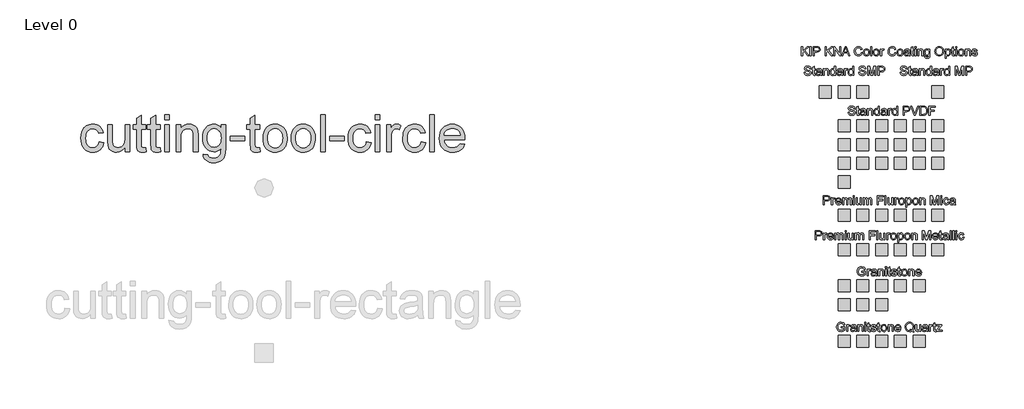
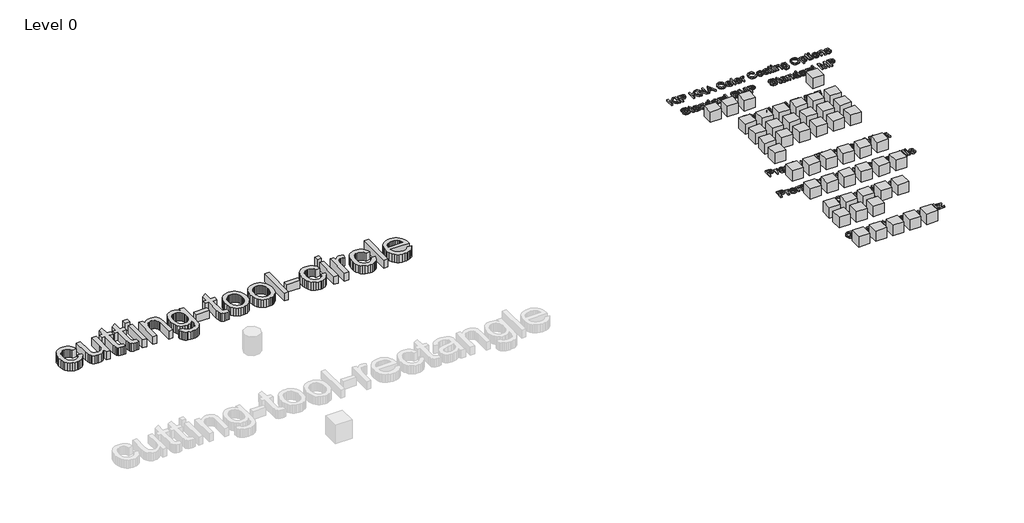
# One storey, part 4 of 4: 50 proxies.
"""IFC4 building model written with IfcOpenShell, lengths in millimetres."""

from ifc_helpers import new_model, si_unit, origin, origin_with_axes, place, context, project, spatial, polyline, outline, extrude, transform, mapped, element, save
from components import ks_color_sample_ks_color_sample_0243efec, r19_kna_color_range_kingspan_quadcore_4278cd54, r19_kna_color_range_kingspan_quadcore_c5814d20, r19_kna_color_range_kingspan_quadcore_91b79b7c

model = new_model("IFC4")

# Units and contexts
model_context = context("Model", 3, world=origin())
ifc_project = project(units=[si_unit("LENGTHUNIT", "METRE", prefix="MILLI")], contexts=[model_context])

# Site, building, storey
site = spatial("IfcSite", under=ifc_project)
building = spatial("IfcBuilding", under=site)
storey = spatial("IfcBuildingStorey", under=building, Name="Level 0", Elevation=0.0)

# Proxies
placement = place(None, origin())
element("IfcBuildingElementProxy", 1, Name="24\" Arial", ObjectType="24\" Arial", at=placement, inside=storey, context=model_context, shape_type="SweptSolid", body=[
    extrude(outline(polyline([(141.6411699, 12812.4925661), (217.7829435, 12802.9748444), (209.5014102, 12767.0463745), (196.5539627, 12735.2540238), (178.9406007, 12707.5977925), (156.6613245, 12684.0776804), (130.6548935, 12665.3071346), (101.8600676, 12651.8996018), (70.2768466, 12643.8550822), (35.9052305, 12641.1735756), (-6.7990393, 12644.9146723), (-45.0883503, 12656.1379623), (-78.9627026, 12674.8434456), (-108.422096, 12701.0311222), (-132.2675208, 12734.2083757), (-149.2999671, 12773.8825896), (-159.5194349, 12820.0537639), (-162.9259241, 12872.7218986), (-157.1074732, 12940.4798978), (-149.8344095, 12970.9709974), (-139.6521203, 12999.203497), (-126.4908958, 13024.610423), (-110.281026, 13046.6248018), (-91.0225111, 13065.2466332), (-68.7153508, 13080.4759174), (-44.3680149, 13092.3173016), (-18.9889729, 13100.7754332), (7.4217753, 13105.8503121), (34.8642297, 13107.5419384), (68.6456355, 13105.2182759), (99.2017976, 13098.2472883), (126.5327162, 13086.6289757), (150.6383912, 13070.3633381), (171.109858, 13049.8221614), (187.5381521, 13025.3772317), (199.9232733, 12997.0285489), (208.2652218, 12964.7761131), (132.1234482, 12955.2583914), (118.3115982, 12988.4774708), (96.8037779, 13012.2903643), (68.7897026, 13026.6227148), (35.4590873, 13031.4001649), (9.5874288, 13029.0486184), (-13.7467902, 13021.993979), (-34.5435698, 13010.2362467), (-52.8029099, 12993.7754214), (-67.6697027, 12972.2304225), (-78.2888404, 12945.2201693), (-84.6603231, 12912.7446619), (-86.7841506, 12874.8039002), (-84.7067963, 12836.2915176), (-78.4747334, 12803.4395769), (-68.087962, 12776.248078), (-53.5464819, 12754.7170211), (-35.6496332, 12738.3537896), (-15.1967556, 12726.6657671), (7.8121507, 12719.6529537), (33.3770857, 12717.3153492), (72.8049914, 12723.1523894), (89.856027, 12730.4486897), (105.1317844, 12740.6635102), (118.2047097, 12753.9083866), (128.6472491, 12770.2948547), (136.4594025, 12789.8229145), (141.6411699, 12812.4925661)])), origin_with_axes(), (0.0, 0.0, 1.0), 152.4),
    extrude(outline(polyline([(569.938646, 12650.6912973), (569.938646, 12727.5766429), (542.3893031, 12689.7753009), (510.304171, 12662.7743424), (473.6832497, 12646.5737673), (432.5265391, 12641.1735756), (395.4408852, 12644.9657929), (360.9205548, 12656.3424446), (331.9584251, 12673.4446007), (311.5473735, 12694.4133313), (297.8098807, 12719.8806726), (288.8684273, 12750.4786607), (284.4069953, 12821.2667157), (284.4069953, 13098.0242167), (360.5487688, 13098.0242167), (360.5487688, 12857.1068865), (361.7013054, 12808.9234204), (365.1589152, 12779.4779689), (376.2567274, 12753.5830738), (395.2735815, 12733.8970049), (420.9454051, 12721.4607631), (452.0081257, 12717.3153492), (484.8554191, 12721.5537096), (515.5835323, 12734.2687909), (540.9207484, 12754.2894672), (557.5953507, 12780.4446126), (566.8528221, 12816.266194), (569.938646, 12865.2861786), (569.938646, 13098.0242167), (646.0804195, 13098.0242167), (646.0804195, 12650.6912973), (569.938646, 12650.6912973)])), origin_with_axes(), (0.0, 0.0, 1.0), 152.4),
    extrude(outline(polyline([(912.5766268, 12714.1923467), (922.0943485, 12648.4605813), (891.9425036, 12642.9953271), (865.1367328, 12641.1735756), (828.5901686, 12644.3337567), (801.3382546, 12653.8142998), (782.0797396, 12668.4254897), (769.5133727, 12686.9776113), (762.598153, 12718.8396718), (760.2930798, 12773.3806785), (760.2930798, 13021.8824432), (703.1867496, 13021.8824432), (703.1867496, 13098.0242167), (760.2930798, 13098.0242167), (760.2930798, 13206.7344442), (836.4348533, 13251.497479), (836.4348533, 13098.0242167), (912.5766268, 13098.0242167), (912.5766268, 13021.8824432), (836.4348533, 13021.8824432), (836.4348533, 12775.6113945), (840.4501421, 12736.3507925), (853.4626522, 12722.445996), (864.4489286, 12718.5980109), (879.4133153, 12717.3153492), (912.5766268, 12714.1923467)])), origin_with_axes(), (0.0, 0.0, 1.0), 152.4),
    extrude(outline(polyline([(1150.519669, 12714.1923467), (1160.0373907, 12648.4605813), (1129.8855458, 12642.9953271), (1103.079775, 12641.1735756), (1066.5332108, 12644.3337567), (1039.2812968, 12653.8142998), (1020.0227818, 12668.4254897), (1007.4564149, 12686.9776113), (1000.5411952, 12718.8396718), (998.236122, 12773.3806785), (998.236122, 13021.8824432), (941.1297919, 13021.8824432), (941.1297919, 13098.0242167), (998.236122, 13098.0242167), (998.236122, 13206.7344442), (1074.3778955, 13251.497479), (1074.3778955, 13098.0242167), (1150.519669, 13098.0242167), (1150.519669, 13021.8824432), (1074.3778955, 13021.8824432), (1074.3778955, 12775.6113945), (1078.3931844, 12736.3507925), (1091.4056945, 12722.445996), (1102.3919709, 12718.5980109), (1117.3563575, 12717.3153492), (1150.519669, 12714.1923467)])), origin_with_axes(), (0.0, 0.0, 1.0), 152.4),
    extrude(outline(polyline([(1226.6614426, 13183.6837119), (1226.6614426, 13259.8254855), (1302.8032161, 13259.8254855), (1302.8032161, 13183.6837119), (1226.6614426, 13183.6837119)])), origin_with_axes(), (0.0, 0.0, 1.0), 152.4),
    extrude(outline(polyline([(1226.6614426, 12650.6912973), (1226.6614426, 13098.0242167), (1302.8032161, 13098.0242167), (1302.8032161, 12650.6912973), (1226.6614426, 12650.6912973)])), origin_with_axes(), (0.0, 0.0, 1.0), 152.4),
    extrude(outline(polyline([(1417.0158763, 12650.6912973), (1417.0158763, 13098.0242167), (1493.1576499, 13098.0242167), (1493.1576499, 13035.5641682), (1519.610224, 13067.0544427), (1551.379338, 13089.5474959), (1588.4649919, 13103.0433278), (1630.8671856, 13107.5419384), (1668.3989826, 13103.9170249), (1702.7705986, 13093.0422843), (1731.4352995, 13076.2747355), (1751.8463511, 13054.9713975), (1765.6953797, 13029.1880382), (1774.6740117, 12998.9804254), (1778.6893006, 12925.3667967), (1778.6893006, 12650.6912973), (1702.547527, 12650.6912973), (1702.547527, 12915.105503), (1700.3539896, 12954.4776408), (1693.7733774, 12982.4731269), (1681.6345643, 13002.5309817), (1662.7664247, 13018.090226), (1638.5817451, 13028.0726802), (1610.4933126, 13031.4001649), (1587.3728705, 13029.5319402), (1565.8975815, 13023.9272662), (1546.0674455, 13014.5861429), (1527.8824626, 13001.5085702), (1512.690357, 12983.2074042), (1501.838853, 12958.1955008), (1495.3279507, 12926.4728601), (1493.1576499, 12888.039482), (1493.1576499, 12650.6912973), (1417.0158763, 12650.6912973)])), origin_with_axes(), (0.0, 0.0, 1.0), 152.4),
    extrude(outline(polyline([(1864.3487958, 12612.6204106), (1940.4905693, 12603.1026889), (1948.892933, 12579.3083847), (1965.1771599, 12562.9498005), (1997.1879348, 12550.2347192), (2039.0882174, 12545.9963587), (2083.776895, 12550.7923982), (2101.8271055, 12556.7874475), (2117.0145637, 12565.1805165), (2140.065296, 12588.2312487), (2154.1931641, 12619.0151298), (2158.3199887, 12651.7694767), (2159.3981681, 12707.7976275), (2134.060952, 12682.813608), (2105.7866264, 12664.9678799), (2074.5751914, 12654.260443), (2040.426647, 12650.6912973), (1998.6797262, 12654.8460059), (1961.9240324, 12667.3101317), (1930.1595657, 12688.0836746), (1903.3863261, 12717.1666348), (1882.1434034, 12752.0587512), (1866.9698871, 12790.259763), (1857.8657773, 12831.7696703), (1854.8310741, 12876.5884731), (1860.277739, 12938.0632887), (1876.6177339, 12994.5933506), (1888.7286629, 13020.0839284), (1903.2747903, 13042.4979771), (1920.256116, 13061.8354966), (1939.6726401, 13078.096487), (1961.2129916, 13090.978872), (1984.5658, 13100.1805756), (2009.7310651, 13105.7015977), (2036.708787, 13107.5419384), (2072.3165915, 13103.3779352), (2104.6340898, 13090.8859255), (2133.661282, 13070.0659093), (2159.3981681, 13040.9178866), (2159.3981681, 13098.0242167), (2235.5399417, 13098.0242167), (2235.5399417, 12711.8129163), (2230.3349376, 12622.6400434), (2223.8286825, 12589.4720845), (2214.7199255, 12563.9164441), (2202.7902421, 12543.3055575), (2187.8212081, 12524.9718602), (2169.8128236, 12508.9153522), (2148.7650884, 12495.1360335), (2124.8917797, 12484.0753999), (2098.4066743, 12476.1749473), (2069.3097722, 12471.4346757), (2037.6010734, 12469.8545852), (2000.2969953, 12472.0806539), (1966.7572504, 12478.75886), (1936.9818389, 12489.8892035), (1910.9707606, 12505.4716844), (1889.9602041, 12525.5248919), (1875.1863578, 12550.0674155), (1866.6492217, 12579.099255), (1864.3487958, 12612.6204106)]), holes=[polyline([(1930.9728476, 12881.7934771), (1933.0037286, 12844.1454969), (1939.0963718, 12811.9534763), (1949.250777, 12785.2174154), (1963.4669443, 12763.937314), (1980.7503461, 12747.7042076), (2000.1064549, 12736.1091316), (2021.5352707, 12729.152086), (2045.0367935, 12726.8330708), (2068.30595, 12729.1381441), (2089.6325246, 12736.0533637), (2109.0165173, 12747.5787298), (2126.4579282, 12763.7142424), (2140.8692832, 12784.7852141), (2151.1631082, 12811.1169578), (2157.3394031, 12842.7094735), (2159.3981681, 12879.5627611), (2157.2789879, 12914.8777841), (2150.9214473, 12945.573366), (2140.3255462, 12971.6495068), (2125.4912846, 12993.1062066), (2107.6734404, 13009.8598133), (2088.1267913, 13021.8266753), (2066.8513372, 13029.0067925), (2043.8470783, 13031.4001649), (2021.2285473, 13029.0439711), (2000.3667051, 13021.9753897), (1981.2615519, 13010.1944207), (1963.9130875, 12993.7010642), (1949.5017325, 12972.5696772), (1939.2079076, 12946.874617), (1933.0316126, 12916.6158837), (1930.9728476, 12881.7934771)])]), origin_with_axes(), (0.0, 0.0, 1.0), 152.4),
    extrude(outline(polyline([(2311.6817152, 12831.5280094), (2311.6817152, 12907.6697829), (2549.6247574, 12907.6697829), (2549.6247574, 12831.5280094), (2311.6817152, 12831.5280094)])), origin_with_axes(), (0.0, 0.0, 1.0), 152.4),
    extrude(outline(polyline([(2797.0855213, 12714.1923467), (2806.603243, 12648.4605813), (2776.4513982, 12642.9953271), (2749.6456273, 12641.1735756), (2713.0990632, 12644.3337567), (2685.8471491, 12653.8142998), (2666.5886341, 12668.4254897), (2654.0222672, 12686.9776113), (2647.1070475, 12718.8396718), (2644.8019743, 12773.3806785), (2644.8019743, 13021.8824432), (2587.6956442, 13021.8824432), (2587.6956442, 13098.0242167), (2644.8019743, 13098.0242167), (2644.8019743, 13206.7344442), (2720.9437478, 13251.497479), (2720.9437478, 13098.0242167), (2797.0855213, 13098.0242167), (2797.0855213, 13021.8824432), (2720.9437478, 13021.8824432), (2720.9437478, 12775.6113945), (2724.9590367, 12736.3507925), (2737.9715468, 12722.445996), (2748.9578232, 12718.5980109), (2763.9222098, 12717.3153492), (2797.0855213, 12714.1923467)])), origin_with_axes(), (0.0, 0.0, 1.0), 152.4),
    extrude(outline(polyline([(2854.1918515, 12874.357757), (2858.3093815, 12932.291311), (2870.6619714, 12982.2128767), (2891.2496214, 13024.1224539), (2920.0723313, 13058.0200428), (2949.0902289, 13079.6858721), (2981.1195931, 13095.1614645), (3016.1604239, 13104.44682), (3054.2127214, 13107.5419384), (3096.2198924, 13103.7729578), (3134.20248, 13092.466016), (3168.1604841, 13073.6211129), (3198.0939047, 13047.2382487), (3222.5248925, 13014.2097096), (3239.975598, 12975.4277821), (3250.4460213, 12930.8924662), (3253.9361624, 12880.6037619), (3252.3932505, 12839.8467213), (3247.7645148, 12803.6812378), (3240.0499552, 12772.1073114), (3229.2495718, 12745.1249422), (3215.498137, 12721.8186071), (3198.9304232, 12701.2727831), (3179.5464305, 12683.4874702), (3157.3461587, 12668.4626683), (3133.1940105, 12656.5236903), (3107.9543882, 12647.9958488), (3081.6272918, 12642.8791439), (3054.2127214, 12641.1735756), (3011.5921034, 12644.9286143), (2973.2563191, 12656.1937302), (2939.2053685, 12674.9689234), (2909.4392516, 12701.2541938), (2885.2685141, 12734.6033983), (2868.0037015, 12774.5703937), (2857.644814, 12821.1551799), (2854.1918515, 12874.357757)]), holes=[polyline([(2930.333625, 12874.5064714), (2932.5364571, 12837.5741793), (2939.1449533, 12805.5959357), (2950.1591136, 12778.5717406), (2965.5789381, 12756.5015939), (2984.335542, 12739.3576118), (3005.3600405, 12727.1119103), (3028.6524336, 12719.7644895), (3054.2127214, 12717.3153492), (3079.642884, 12719.7784314), (3102.8423306, 12727.1676783), (3123.8110612, 12739.4830896), (3142.5490758, 12756.7246655), (3157.9689003, 12779.0132364), (3168.9830606, 12806.4696328), (3175.5915569, 12839.0938546), (3177.7943889, 12876.8859019), (3175.5776149, 12912.6470681), (3168.9272927, 12943.7887932), (3157.8434225, 12970.3110772), (3142.3260042, 12992.2139201), (3123.5182797, 13009.3579022), (3102.5634911, 13021.6036037), (3079.4616383, 13028.9510246), (3054.2127214, 13031.4001649), (3028.6524336, 13028.9603193), (3005.3600405, 13021.6407823), (2984.335542, 13009.4415541), (2965.5789381, 12992.3626345), (2950.1591136, 12970.3575505), (2939.1449533, 12943.3798286), (2932.5364571, 12911.4294689), (2930.333625, 12874.5064714)])]), origin_with_axes(), (0.0, 0.0, 1.0), 152.4),
    extrude(outline(polyline([(3320.5602143, 12874.357757), (3324.6777443, 12932.291311), (3337.0303342, 12982.2128767), (3357.6179842, 13024.1224539), (3386.4406941, 13058.0200428), (3415.4585917, 13079.6858721), (3447.4879559, 13095.1614645), (3482.5287867, 13104.44682), (3520.5810842, 13107.5419384), (3562.5882552, 13103.7729578), (3600.5708428, 13092.466016), (3634.5288469, 13073.6211129), (3664.4622675, 13047.2382487), (3688.8932553, 13014.2097096), (3706.3439608, 12975.4277821), (3716.8143841, 12930.8924662), (3720.3045252, 12880.6037619), (3718.7616133, 12839.8467213), (3714.1328776, 12803.6812378), (3706.418318, 12772.1073114), (3695.6179346, 12745.1249422), (3681.8664998, 12721.8186071), (3665.298786, 12701.2727831), (3645.9147933, 12683.4874702), (3623.7145215, 12668.4626683), (3599.5623733, 12656.5236903), (3574.322751, 12647.9958488), (3547.9956546, 12642.8791439), (3520.5810842, 12641.1735756), (3477.9604662, 12644.9286143), (3439.6246819, 12656.1937302), (3405.5737313, 12674.9689234), (3375.8076144, 12701.2541938), (3351.6368768, 12734.6033983), (3334.3720643, 12774.5703937), (3324.0131768, 12821.1551799), (3320.5602143, 12874.357757)]), holes=[polyline([(3396.7019878, 12874.5064714), (3398.9048199, 12837.5741793), (3405.5133161, 12805.5959357), (3416.5274764, 12778.5717406), (3431.9473009, 12756.5015939), (3450.7039048, 12739.3576118), (3471.7284033, 12727.1119103), (3495.0207964, 12719.7644895), (3520.5810842, 12717.3153492), (3546.0112468, 12719.7784314), (3569.2106934, 12727.1676783), (3590.179424, 12739.4830896), (3608.9174386, 12756.7246655), (3624.3372631, 12779.0132364), (3635.3514234, 12806.4696328), (3641.9599197, 12839.0938546), (3644.1627517, 12876.8859019), (3641.9459777, 12912.6470681), (3635.2956555, 12943.7887932), (3624.2117853, 12970.3110772), (3608.694367, 12992.2139201), (3589.8866425, 13009.3579022), (3568.9318539, 13021.6036037), (3545.8300011, 13028.9510246), (3520.5810842, 13031.4001649), (3495.0207964, 13028.9603193), (3471.7284033, 13021.6407823), (3450.7039048, 13009.4415541), (3431.9473009, 12992.3626345), (3416.5274764, 12970.3575505), (3405.5133161, 12943.3798286), (3398.9048199, 12911.4294689), (3396.7019878, 12874.5064714)])]), origin_with_axes(), (0.0, 0.0, 1.0), 152.4),
    extrude(outline(polyline([(3805.9640204, 12650.6912973), (3805.9640204, 13259.8254855), (3882.105794, 13259.8254855), (3882.105794, 12650.6912973), (3805.9640204, 12650.6912973)])), origin_with_axes(), (0.0, 0.0, 1.0), 152.4),
    extrude(outline(polyline([(3958.2475675, 12831.5280094), (3958.2475675, 12907.6697829), (4196.1906097, 12907.6697829), (4196.1906097, 12831.5280094), (3958.2475675, 12831.5280094)])), origin_with_axes(), (0.0, 0.0, 1.0), 152.4),
    extrude(outline(polyline([(4567.3817556, 12812.4925661), (4643.5235291, 12802.9748444), (4635.2419959, 12767.0463745), (4622.2945483, 12735.2540238), (4604.6811864, 12707.5977925), (4582.4019102, 12684.0776804), (4556.3954792, 12665.3071346), (4527.6006532, 12651.8996018), (4496.0174322, 12643.8550822), (4461.6458162, 12641.1735756), (4418.9415464, 12644.9146723), (4380.6522354, 12656.1379623), (4346.7778831, 12674.8434456), (4317.3184897, 12701.0311222), (4293.4730649, 12734.2083757), (4276.4406186, 12773.8825896), (4266.2211508, 12820.0537639), (4262.8146616, 12872.7218986), (4268.6331125, 12940.4798978), (4275.9061762, 12970.9709974), (4286.0884654, 12999.203497), (4299.2496899, 13024.610423), (4315.4595596, 13046.6248018), (4334.7180746, 13065.2466332), (4357.0252348, 13080.4759174), (4381.3725707, 13092.3173016), (4406.7516128, 13100.7754332), (4433.162361, 13105.8503121), (4460.6048154, 13107.5419384), (4494.3862212, 13105.2182759), (4524.9423833, 13098.2472883), (4552.2733019, 13086.6289757), (4576.3789769, 13070.3633381), (4596.8504437, 13049.8221614), (4613.2787378, 13025.3772317), (4625.663859, 12997.0285489), (4634.0058074, 12964.7761131), (4557.8640339, 12955.2583914), (4544.0521839, 12988.4774708), (4522.5443636, 13012.2903643), (4494.5302882, 13026.6227148), (4461.199673, 13031.4001649), (4435.3280145, 13029.0486184), (4411.9937955, 13021.993979), (4391.1970159, 13010.2362467), (4372.9376758, 12993.7754214), (4358.070883, 12972.2304225), (4347.4517452, 12945.2201693), (4341.0802626, 12912.7446619), (4338.9564351, 12874.8039002), (4341.0337894, 12836.2915176), (4347.2658522, 12803.4395769), (4357.6526237, 12776.248078), (4372.1941038, 12754.7170211), (4390.0909525, 12738.3537896), (4410.54383, 12726.6657671), (4433.5527363, 12719.6529537), (4459.1176714, 12717.3153492), (4498.5455771, 12723.1523894), (4515.5966127, 12730.4486897), (4530.8723701, 12740.6635102), (4543.9452954, 12753.9083866), (4554.3878348, 12770.2948547), (4562.1999882, 12789.8229145), (4567.3817556, 12812.4925661)])), origin_with_axes(), (0.0, 0.0, 1.0), 152.4),
    extrude(outline(polyline([(4710.147581, 13183.6837119), (4710.147581, 13259.8254855), (4786.2893545, 13259.8254855), (4786.2893545, 13183.6837119), (4710.147581, 13183.6837119)])), origin_with_axes(), (0.0, 0.0, 1.0), 152.4),
    extrude(outline(polyline([(4710.147581, 12650.6912973), (4710.147581, 13098.0242167), (4786.2893545, 13098.0242167), (4786.2893545, 12650.6912973), (4710.147581, 12650.6912973)])), origin_with_axes(), (0.0, 0.0, 1.0), 152.4),
    extrude(outline(polyline([(4900.5020148, 12650.6912973), (4900.5020148, 13098.0242167), (4967.1260666, 13098.0242167), (4967.1260666, 13031.8463081), (4991.7383, 13070.2146237), (5014.4172462, 13092.8192127), (5037.1705496, 13103.861257), (5062.0058547, 13107.5419384), (5099.928027, 13101.6677196), (5138.445057, 13084.045063), (5113.0148944, 13015.7851528), (5086.2463021, 13027.4964119), (5059.4777099, 13031.4001649), (5036.7429957, 13027.6451263), (5016.4248906, 13016.3800104), (5000.0105386, 12998.459925), (4988.9870836, 12974.739978), (4979.7296121, 12932.2076592), (4976.6437883, 12885.8087659), (4976.6437883, 12650.6912973), (4900.5020148, 12650.6912973)])), origin_with_axes(), (0.0, 0.0, 1.0), 152.4),
    extrude(outline(polyline([(5471.5653161, 12812.4925661), (5547.7070897, 12802.9748444), (5539.4255564, 12767.0463745), (5526.4781089, 12735.2540238), (5508.8647469, 12707.5977925), (5486.5854707, 12684.0776804), (5460.5790397, 12665.3071346), (5431.7842138, 12651.8996018), (5400.2009928, 12643.8550822), (5365.8293767, 12641.1735756), (5323.1251069, 12644.9146723), (5284.8357959, 12656.1379623), (5250.9614436, 12674.8434456), (5221.5020502, 12701.0311222), (5197.6566254, 12734.2083757), (5180.6241791, 12773.8825896), (5170.4047113, 12820.0537639), (5166.9982221, 12872.7218986), (5172.816673, 12940.4798978), (5180.0897367, 12970.9709974), (5190.2720259, 12999.203497), (5203.4332504, 13024.610423), (5219.6431202, 13046.6248018), (5238.9016351, 13065.2466332), (5261.2087954, 13080.4759174), (5285.5561313, 13092.3173016), (5310.9351733, 13100.7754332), (5337.3459215, 13105.8503121), (5364.7883759, 13107.5419384), (5398.5697817, 13105.2182759), (5429.1259438, 13098.2472883), (5456.4568624, 13086.6289757), (5480.5625374, 13070.3633381), (5501.0340042, 13049.8221614), (5517.4622983, 13025.3772317), (5529.8474195, 12997.0285489), (5538.189368, 12964.7761131), (5462.0475944, 12955.2583914), (5448.2357444, 12988.4774708), (5426.7279241, 13012.2903643), (5398.7138487, 13026.6227148), (5365.3832335, 13031.4001649), (5339.511575, 13029.0486184), (5316.177356, 13021.993979), (5295.3805764, 13010.2362467), (5277.1212363, 12993.7754214), (5262.2544435, 12972.2304225), (5251.6353058, 12945.2201693), (5245.2638231, 12912.7446619), (5243.1399956, 12874.8039002), (5245.2173499, 12836.2915176), (5251.4494128, 12803.4395769), (5261.8361842, 12776.248078), (5276.3776643, 12754.7170211), (5294.274513, 12738.3537896), (5314.7273906, 12726.6657671), (5337.7362968, 12719.6529537), (5363.3012319, 12717.3153492), (5402.7291376, 12723.1523894), (5419.7801732, 12730.4486897), (5435.0559306, 12740.6635102), (5448.1288559, 12753.9083866), (5458.5713953, 12770.2948547), (5466.3835487, 12789.8229145), (5471.5653161, 12812.4925661)])), origin_with_axes(), (0.0, 0.0, 1.0), 152.4),
    extrude(outline(polyline([(5614.3311415, 12650.6912973), (5614.3311415, 13259.8254855), (5690.472915, 13259.8254855), (5690.472915, 12650.6912973), (5614.3311415, 12650.6912973)])), origin_with_axes(), (0.0, 0.0, 1.0), 152.4),
    extrude(outline(polyline([(6117.8781046, 12783.939401), (6192.5327341, 12774.4216793), (6181.0863725, 12744.52079), (6165.6340168, 12718.170457), (6146.1756668, 12695.3706803), (6122.7113227, 12676.12146), (6095.4826452, 12660.8317606), (6064.7312954, 12649.9105467), (6030.4572732, 12643.3578184), (5992.6605786, 12641.1735756), (5945.4158722, 12644.9425563), (5903.320402, 12656.2494981), (5866.3741679, 12675.0944011), (5834.57717, 12701.4772654), (5809.0075876, 12734.6638135), (5790.7436001, 12773.9197682), (5779.7852077, 12819.2451293), (5776.1324102, 12870.639897), (5779.8223863, 12923.7774116), (5790.8923145, 12970.6131533), (5809.342195, 13011.1471224), (5835.1720276, 13045.3793186), (5866.8853737, 13072.5754648), (5902.9857946, 13092.0012835), (5943.4732904, 13103.6567747), (5988.347861, 13107.5419384), (6031.7771135, 13103.6660693), (6071.0516575, 13092.0384621), (6106.1714928, 13072.6591167), (6137.1366196, 13045.528033), (6162.4134205, 13011.370194), (6180.4682783, 12970.9105821), (6191.301193, 12924.1491976), (6194.9121645, 12871.0860402), (6194.4660213, 12850.5634528), (5852.2741837, 12850.5634528), (5856.6844952, 12820.1792417), (5865.4539975, 12793.5686585), (5878.5826908, 12770.7317032), (5896.0705749, 12751.6683759), (5916.9510064, 12736.6389267), (5940.2573414, 12725.9036058), (5965.9895802, 12719.4624133), (5994.1477227, 12717.3153492), (6034.672397, 12721.2934594), (6068.8023522, 12733.2277901), (6096.537588, 12753.8619133), (6117.8781046, 12783.939401)]), holes=[polyline([(5852.2741837, 12926.7052263), (6118.770391, 12926.7052263), (6108.4719187, 12966.9324719), (6099.6141172, 12982.7519664), (6088.2839387, 12995.7087086), (6067.5196904, 13011.3237207), (6043.8926899, 13022.4773008), (6017.4029372, 13029.1694489), (5988.0504322, 13031.4001649), (5961.2771926, 13029.6202394), (5936.7253744, 13024.2804629), (5914.3949776, 13015.3808355), (5894.2860021, 13002.921357), (5877.4115649, 12987.4782959), (5864.7847827, 12969.6279204), (5856.4056557, 12949.3702306), (5852.2741837, 12926.7052263)])]), origin_with_axes(), (0.0, 0.0, 1.0), 152.4),
])
ks_color_sample_ks_color_sample_shape = ks_color_sample_ks_color_sample_0243efec(model_context)
element("IfcBuildingElementProxy", 2, Name="KS_Color Sample : KS_Color Sample", ObjectType="KS_Color Sample : KS_Color Sample", at=placement, inside=storey, context=model_context, shape_type="MappedRepresentation", body=[
    mapped(ks_color_sample_ks_color_sample_shape, transform((12166.5853815, 13639.2290821, 0.0), x_axis=(1.0, 0.0, 0.0), y_axis=(0.0, 1.0, 0.0), z_axis=(0.0, 0.0, 1.0))),
])
element("IfcBuildingElementProxy", 3, Name="KS_Color Sample : KS_Color Sample", ObjectType="KS_Color Sample : KS_Color Sample", at=placement, inside=storey, context=model_context, shape_type="MappedRepresentation", body=[
    mapped(ks_color_sample_ks_color_sample_shape, transform((12476.5853815, 13639.2290821, 0.0), x_axis=(1.0, 0.0, 0.0), y_axis=(0.0, 1.0, 0.0), z_axis=(0.0, 0.0, 1.0))),
])
element("IfcBuildingElementProxy", 4, Name="KS_Color Sample : KS_Color Sample", ObjectType="KS_Color Sample : KS_Color Sample", at=placement, inside=storey, context=model_context, shape_type="MappedRepresentation", body=[
    mapped(ks_color_sample_ks_color_sample_shape, transform((12786.5853815, 13639.2290821, 0.0), x_axis=(1.0, 0.0, 0.0), y_axis=(0.0, 1.0, 0.0), z_axis=(0.0, 0.0, 1.0))),
])
element("IfcBuildingElementProxy", 5, Name="KS_Color Sample : KS_Color Sample", ObjectType="KS_Color Sample : KS_Color Sample", at=placement, inside=storey, context=model_context, shape_type="MappedRepresentation", body=[
    mapped(ks_color_sample_ks_color_sample_shape, transform((14026.5853815, 13639.2290821, 0.0), x_axis=(1.0, 0.0, 0.0), y_axis=(0.0, 1.0, 0.0), z_axis=(0.0, 0.0, 1.0))),
])
element("IfcBuildingElementProxy", 6, Name="KS_Color Sample : KS_Color Sample", ObjectType="KS_Color Sample : KS_Color Sample", at=placement, inside=storey, context=model_context, shape_type="MappedRepresentation", body=[
    mapped(ks_color_sample_ks_color_sample_shape, transform((12786.5853815, 13079.2290821, 0.0), x_axis=(1.0, 0.0, 0.0), y_axis=(0.0, 1.0, 0.0), z_axis=(0.0, 0.0, 1.0))),
])
element("IfcBuildingElementProxy", 7, Name="KS_Color Sample : KS_Color Sample", ObjectType="KS_Color Sample : KS_Color Sample", at=placement, inside=storey, context=model_context, shape_type="MappedRepresentation", body=[
    mapped(ks_color_sample_ks_color_sample_shape, transform((13096.5853815, 13079.2290821, 0.0), x_axis=(1.0, 0.0, 0.0), y_axis=(0.0, 1.0, 0.0), z_axis=(0.0, 0.0, 1.0))),
])
element("IfcBuildingElementProxy", 8, Name="KS_Color Sample : KS_Color Sample", ObjectType="KS_Color Sample : KS_Color Sample", at=placement, inside=storey, context=model_context, shape_type="MappedRepresentation", body=[
    mapped(ks_color_sample_ks_color_sample_shape, transform((13406.5853815, 13079.2290821, 0.0), x_axis=(1.0, 0.0, 0.0), y_axis=(0.0, 1.0, 0.0), z_axis=(0.0, 0.0, 1.0))),
])
element("IfcBuildingElementProxy", 9, Name="KS_Color Sample : KS_Color Sample", ObjectType="KS_Color Sample : KS_Color Sample", at=placement, inside=storey, context=model_context, shape_type="MappedRepresentation", body=[
    mapped(ks_color_sample_ks_color_sample_shape, transform((13716.5853815, 13079.2290821, 0.0), x_axis=(1.0, 0.0, 0.0), y_axis=(0.0, 1.0, 0.0), z_axis=(0.0, 0.0, 1.0))),
])
element("IfcBuildingElementProxy", 10, Name="KS_Color Sample : KS_Color Sample", ObjectType="KS_Color Sample : KS_Color Sample", at=placement, inside=storey, context=model_context, shape_type="MappedRepresentation", body=[
    mapped(ks_color_sample_ks_color_sample_shape, transform((12476.5853815, 11599.2290821, 0.0), x_axis=(1.0, 0.0, 0.0), y_axis=(0.0, 1.0, 0.0), z_axis=(0.0, 0.0, 1.0))),
])
element("IfcBuildingElementProxy", 11, Name="KS_Color Sample : KS_Color Sample", ObjectType="KS_Color Sample : KS_Color Sample", at=placement, inside=storey, context=model_context, shape_type="MappedRepresentation", body=[
    mapped(ks_color_sample_ks_color_sample_shape, transform((12786.5853815, 11599.2290821, 0.0), x_axis=(1.0, 0.0, 0.0), y_axis=(0.0, 1.0, 0.0), z_axis=(0.0, 0.0, 1.0))),
])
element("IfcBuildingElementProxy", 12, Name="KS_Color Sample : KS_Color Sample", ObjectType="KS_Color Sample : KS_Color Sample", at=placement, inside=storey, context=model_context, shape_type="MappedRepresentation", body=[
    mapped(ks_color_sample_ks_color_sample_shape, transform((13096.5853815, 11599.2290821, 0.0), x_axis=(1.0, 0.0, 0.0), y_axis=(0.0, 1.0, 0.0), z_axis=(0.0, 0.0, 1.0))),
])
element("IfcBuildingElementProxy", 13, Name="KS_Color Sample : KS_Color Sample", ObjectType="KS_Color Sample : KS_Color Sample", at=placement, inside=storey, context=model_context, shape_type="MappedRepresentation", body=[
    mapped(ks_color_sample_ks_color_sample_shape, transform((13406.5853815, 11599.2290821, 0.0), x_axis=(1.0, 0.0, 0.0), y_axis=(0.0, 1.0, 0.0), z_axis=(0.0, 0.0, 1.0))),
])
element("IfcBuildingElementProxy", 14, Name="KS_Color Sample : KS_Color Sample", ObjectType="KS_Color Sample : KS_Color Sample", at=placement, inside=storey, context=model_context, shape_type="MappedRepresentation", body=[
    mapped(ks_color_sample_ks_color_sample_shape, transform((14026.5853815, 13079.2290821, 0.0), x_axis=(1.0, 0.0, 0.0), y_axis=(0.0, 1.0, 0.0), z_axis=(0.0, 0.0, 1.0))),
])
element("IfcBuildingElementProxy", 15, Name="KS_Color Sample : KS_Color Sample", ObjectType="KS_Color Sample : KS_Color Sample", at=placement, inside=storey, context=model_context, shape_type="MappedRepresentation", body=[
    mapped(ks_color_sample_ks_color_sample_shape, transform((13716.5853815, 12769.2290821, 0.0), x_axis=(1.0, 0.0, 0.0), y_axis=(0.0, 1.0, 0.0), z_axis=(0.0, 0.0, 1.0))),
])
element("IfcBuildingElementProxy", 16, Name="KS_Color Sample : KS_Color Sample", ObjectType="KS_Color Sample : KS_Color Sample", at=placement, inside=storey, context=model_context, shape_type="MappedRepresentation", body=[
    mapped(ks_color_sample_ks_color_sample_shape, transform((14026.5853815, 12769.2290821, 0.0), x_axis=(1.0, 0.0, 0.0), y_axis=(0.0, 1.0, 0.0), z_axis=(0.0, 0.0, 1.0))),
])
element("IfcBuildingElementProxy", 17, Name="KS_Color Sample : KS_Color Sample", ObjectType="KS_Color Sample : KS_Color Sample", at=placement, inside=storey, context=model_context, shape_type="MappedRepresentation", body=[
    mapped(ks_color_sample_ks_color_sample_shape, transform((12476.5853815, 12769.2290821, 0.0), x_axis=(1.0, 0.0, 0.0), y_axis=(0.0, 1.0, 0.0), z_axis=(0.0, 0.0, 1.0))),
])
element("IfcBuildingElementProxy", 18, Name="KS_Color Sample : KS_Color Sample", ObjectType="KS_Color Sample : KS_Color Sample", at=placement, inside=storey, context=model_context, shape_type="MappedRepresentation", body=[
    mapped(ks_color_sample_ks_color_sample_shape, transform((13096.5853815, 12769.2290821, 0.0), x_axis=(1.0, 0.0, 0.0), y_axis=(0.0, 1.0, 0.0), z_axis=(0.0, 0.0, 1.0))),
])
element("IfcBuildingElementProxy", 19, Name="KS_Color Sample : KS_Color Sample", ObjectType="KS_Color Sample : KS_Color Sample", at=placement, inside=storey, context=model_context, shape_type="MappedRepresentation", body=[
    mapped(ks_color_sample_ks_color_sample_shape, transform((13406.5853815, 12769.2290821, 0.0), x_axis=(1.0, 0.0, 0.0), y_axis=(0.0, 1.0, 0.0), z_axis=(0.0, 0.0, 1.0))),
])
element("IfcBuildingElementProxy", 20, Name="KS_Color Sample : KS_Color Sample", ObjectType="KS_Color Sample : KS_Color Sample", at=placement, inside=storey, context=model_context, shape_type="MappedRepresentation", body=[
    mapped(ks_color_sample_ks_color_sample_shape, transform((12476.5853815, 12459.2290821, 0.0), x_axis=(1.0, 0.0, 0.0), y_axis=(0.0, 1.0, 0.0), z_axis=(0.0, 0.0, 1.0))),
])
element("IfcBuildingElementProxy", 21, Name="KS_Color Sample : KS_Color Sample", ObjectType="KS_Color Sample : KS_Color Sample", at=placement, inside=storey, context=model_context, shape_type="MappedRepresentation", body=[
    mapped(ks_color_sample_ks_color_sample_shape, transform((12786.5853815, 12459.2290821, 0.0), x_axis=(1.0, 0.0, 0.0), y_axis=(0.0, 1.0, 0.0), z_axis=(0.0, 0.0, 1.0))),
])
element("IfcBuildingElementProxy", 22, Name="KS_Color Sample : KS_Color Sample", ObjectType="KS_Color Sample : KS_Color Sample", at=placement, inside=storey, context=model_context, shape_type="MappedRepresentation", body=[
    mapped(ks_color_sample_ks_color_sample_shape, transform((13096.5853815, 12459.2290821, 0.0), x_axis=(1.0, 0.0, 0.0), y_axis=(0.0, 1.0, 0.0), z_axis=(0.0, 0.0, 1.0))),
])
element("IfcBuildingElementProxy", 23, Name="KS_Color Sample : KS_Color Sample", ObjectType="KS_Color Sample : KS_Color Sample", at=placement, inside=storey, context=model_context, shape_type="MappedRepresentation", body=[
    mapped(ks_color_sample_ks_color_sample_shape, transform((13406.5853815, 12459.2290821, 0.0), x_axis=(1.0, 0.0, 0.0), y_axis=(0.0, 1.0, 0.0), z_axis=(0.0, 0.0, 1.0))),
])
element("IfcBuildingElementProxy", 24, Name="KS_Color Sample : KS_Color Sample", ObjectType="KS_Color Sample : KS_Color Sample", at=placement, inside=storey, context=model_context, shape_type="MappedRepresentation", body=[
    mapped(ks_color_sample_ks_color_sample_shape, transform((13716.5853815, 12459.2290821, 0.0), x_axis=(1.0, 0.0, 0.0), y_axis=(0.0, 1.0, 0.0), z_axis=(0.0, 0.0, 1.0))),
])
element("IfcBuildingElementProxy", 25, Name="KS_Color Sample : KS_Color Sample", ObjectType="KS_Color Sample : KS_Color Sample", at=placement, inside=storey, context=model_context, shape_type="MappedRepresentation", body=[
    mapped(ks_color_sample_ks_color_sample_shape, transform((14026.5853815, 12459.2290821, 0.0), x_axis=(1.0, 0.0, 0.0), y_axis=(0.0, 1.0, 0.0), z_axis=(0.0, 0.0, 1.0))),
])
element("IfcBuildingElementProxy", 26, Name="KS_Color Sample : KS_Color Sample", ObjectType="KS_Color Sample : KS_Color Sample", at=placement, inside=storey, context=model_context, shape_type="MappedRepresentation", body=[
    mapped(ks_color_sample_ks_color_sample_shape, transform((12476.5853815, 12149.2290821, 0.0), x_axis=(1.0, 0.0, 0.0), y_axis=(0.0, 1.0, 0.0), z_axis=(0.0, 0.0, 1.0))),
])
element("IfcBuildingElementProxy", 27, Name="KS_Color Sample : KS_Color Sample", ObjectType="KS_Color Sample : KS_Color Sample", at=placement, inside=storey, context=model_context, shape_type="MappedRepresentation", body=[
    mapped(ks_color_sample_ks_color_sample_shape, transform((13716.5853815, 11599.2290821, 0.0), x_axis=(1.0, 0.0, 0.0), y_axis=(0.0, 1.0, 0.0), z_axis=(0.0, 0.0, 1.0))),
])
element("IfcBuildingElementProxy", 28, Name="KS_Color Sample : KS_Color Sample", ObjectType="KS_Color Sample : KS_Color Sample", at=placement, inside=storey, context=model_context, shape_type="MappedRepresentation", body=[
    mapped(ks_color_sample_ks_color_sample_shape, transform((14026.5853815, 11599.2290821, 0.0), x_axis=(1.0, 0.0, 0.0), y_axis=(0.0, 1.0, 0.0), z_axis=(0.0, 0.0, 1.0))),
])
element("IfcBuildingElementProxy", 29, Name="KS_Color Sample : KS_Color Sample", ObjectType="KS_Color Sample : KS_Color Sample", at=placement, inside=storey, context=model_context, shape_type="MappedRepresentation", body=[
    mapped(ks_color_sample_ks_color_sample_shape, transform((12476.5853815, 11029.2290821, 0.0), x_axis=(1.0, 0.0, 0.0), y_axis=(0.0, 1.0, 0.0), z_axis=(0.0, 0.0, 1.0))),
])
element("IfcBuildingElementProxy", 30, Name="KS_Color Sample : KS_Color Sample", ObjectType="KS_Color Sample : KS_Color Sample", at=placement, inside=storey, context=model_context, shape_type="MappedRepresentation", body=[
    mapped(ks_color_sample_ks_color_sample_shape, transform((12786.5853815, 11029.2290821, 0.0), x_axis=(1.0, 0.0, 0.0), y_axis=(0.0, 1.0, 0.0), z_axis=(0.0, 0.0, 1.0))),
])
element("IfcBuildingElementProxy", 31, Name="KS_Color Sample : KS_Color Sample", ObjectType="KS_Color Sample : KS_Color Sample", at=placement, inside=storey, context=model_context, shape_type="MappedRepresentation", body=[
    mapped(ks_color_sample_ks_color_sample_shape, transform((13096.5853815, 11029.2290821, 0.0), x_axis=(1.0, 0.0, 0.0), y_axis=(0.0, 1.0, 0.0), z_axis=(0.0, 0.0, 1.0))),
])
element("IfcBuildingElementProxy", 32, Name="KS_Color Sample : KS_Color Sample", ObjectType="KS_Color Sample : KS_Color Sample", at=placement, inside=storey, context=model_context, shape_type="MappedRepresentation", body=[
    mapped(ks_color_sample_ks_color_sample_shape, transform((13406.5853815, 11029.2290821, 0.0), x_axis=(1.0, 0.0, 0.0), y_axis=(0.0, 1.0, 0.0), z_axis=(0.0, 0.0, 1.0))),
])
element("IfcBuildingElementProxy", 33, Name="KS_Color Sample : KS_Color Sample", ObjectType="KS_Color Sample : KS_Color Sample", at=placement, inside=storey, context=model_context, shape_type="MappedRepresentation", body=[
    mapped(ks_color_sample_ks_color_sample_shape, transform((13716.5853815, 11029.2290821, 0.0), x_axis=(1.0, 0.0, 0.0), y_axis=(0.0, 1.0, 0.0), z_axis=(0.0, 0.0, 1.0))),
])
element("IfcBuildingElementProxy", 34, Name="KS_Color Sample : KS_Color Sample", ObjectType="KS_Color Sample : KS_Color Sample", at=placement, inside=storey, context=model_context, shape_type="MappedRepresentation", body=[
    mapped(ks_color_sample_ks_color_sample_shape, transform((14026.5853815, 11029.2290821, 0.0), x_axis=(1.0, 0.0, 0.0), y_axis=(0.0, 1.0, 0.0), z_axis=(0.0, 0.0, 1.0))),
])
element("IfcBuildingElementProxy", 35, Name="KS_Color Sample : KS_Color Sample", ObjectType="KS_Color Sample : KS_Color Sample", at=placement, inside=storey, context=model_context, shape_type="MappedRepresentation", body=[
    mapped(ks_color_sample_ks_color_sample_shape, transform((12476.5853815, 10429.2290821, 0.0), x_axis=(1.0, 0.0, 0.0), y_axis=(0.0, 1.0, 0.0), z_axis=(0.0, 0.0, 1.0))),
])
element("IfcBuildingElementProxy", 36, Name="KS_Color Sample : KS_Color Sample", ObjectType="KS_Color Sample : KS_Color Sample", at=placement, inside=storey, context=model_context, shape_type="MappedRepresentation", body=[
    mapped(ks_color_sample_ks_color_sample_shape, transform((12786.5853815, 10429.2290821, 0.0), x_axis=(1.0, 0.0, 0.0), y_axis=(0.0, 1.0, 0.0), z_axis=(0.0, 0.0, 1.0))),
])
element("IfcBuildingElementProxy", 37, Name="KS_Color Sample : KS_Color Sample", ObjectType="KS_Color Sample : KS_Color Sample", at=placement, inside=storey, context=model_context, shape_type="MappedRepresentation", body=[
    mapped(ks_color_sample_ks_color_sample_shape, transform((13096.5853815, 10429.2290821, 0.0), x_axis=(1.0, 0.0, 0.0), y_axis=(0.0, 1.0, 0.0), z_axis=(0.0, 0.0, 1.0))),
])
element("IfcBuildingElementProxy", 38, Name="KS_Color Sample : KS_Color Sample", ObjectType="KS_Color Sample : KS_Color Sample", at=placement, inside=storey, context=model_context, shape_type="MappedRepresentation", body=[
    mapped(ks_color_sample_ks_color_sample_shape, transform((13406.5853815, 10429.2290821, 0.0), x_axis=(1.0, 0.0, 0.0), y_axis=(0.0, 1.0, 0.0), z_axis=(0.0, 0.0, 1.0))),
])
element("IfcBuildingElementProxy", 39, Name="KS_Color Sample : KS_Color Sample", ObjectType="KS_Color Sample : KS_Color Sample", at=placement, inside=storey, context=model_context, shape_type="MappedRepresentation", body=[
    mapped(ks_color_sample_ks_color_sample_shape, transform((13716.5853815, 10429.2290821, 0.0), x_axis=(1.0, 0.0, 0.0), y_axis=(0.0, 1.0, 0.0), z_axis=(0.0, 0.0, 1.0))),
])
element("IfcBuildingElementProxy", 40, Name="KS_Color Sample : KS_Color Sample", ObjectType="KS_Color Sample : KS_Color Sample", at=placement, inside=storey, context=model_context, shape_type="MappedRepresentation", body=[
    mapped(ks_color_sample_ks_color_sample_shape, transform((12476.5853815, 10119.2290821, 0.0), x_axis=(1.0, 0.0, 0.0), y_axis=(0.0, 1.0, 0.0), z_axis=(0.0, 0.0, 1.0))),
])
element("IfcBuildingElementProxy", 41, Name="KS_Color Sample : KS_Color Sample", ObjectType="KS_Color Sample : KS_Color Sample", at=placement, inside=storey, context=model_context, shape_type="MappedRepresentation", body=[
    mapped(ks_color_sample_ks_color_sample_shape, transform((12786.5853815, 10119.2290821, 0.0), x_axis=(1.0, 0.0, 0.0), y_axis=(0.0, 1.0, 0.0), z_axis=(0.0, 0.0, 1.0))),
])
element("IfcBuildingElementProxy", 42, Name="KS_Color Sample : KS_Color Sample", ObjectType="KS_Color Sample : KS_Color Sample", at=placement, inside=storey, context=model_context, shape_type="MappedRepresentation", body=[
    mapped(ks_color_sample_ks_color_sample_shape, transform((13096.5853815, 10119.2290821, 0.0), x_axis=(1.0, 0.0, 0.0), y_axis=(0.0, 1.0, 0.0), z_axis=(0.0, 0.0, 1.0))),
])
element("IfcBuildingElementProxy", 43, Name="KS_Color Sample : KS_Color Sample", ObjectType="KS_Color Sample : KS_Color Sample", at=placement, inside=storey, context=model_context, shape_type="MappedRepresentation", body=[
    mapped(ks_color_sample_ks_color_sample_shape, transform((12476.5853815, 9509.2290821, 0.0), x_axis=(1.0, 0.0, 0.0), y_axis=(0.0, 1.0, 0.0), z_axis=(0.0, 0.0, 1.0))),
])
element("IfcBuildingElementProxy", 44, Name="KS_Color Sample : KS_Color Sample", ObjectType="KS_Color Sample : KS_Color Sample", at=placement, inside=storey, context=model_context, shape_type="MappedRepresentation", body=[
    mapped(ks_color_sample_ks_color_sample_shape, transform((12786.5853815, 9509.2290821, 0.0), x_axis=(1.0, 0.0, 0.0), y_axis=(0.0, 1.0, 0.0), z_axis=(0.0, 0.0, 1.0))),
])
element("IfcBuildingElementProxy", 45, Name="KS_Color Sample : KS_Color Sample", ObjectType="KS_Color Sample : KS_Color Sample", at=placement, inside=storey, context=model_context, shape_type="MappedRepresentation", body=[
    mapped(ks_color_sample_ks_color_sample_shape, transform((13096.5853815, 9509.2290821, 0.0), x_axis=(1.0, 0.0, 0.0), y_axis=(0.0, 1.0, 0.0), z_axis=(0.0, 0.0, 1.0))),
])
element("IfcBuildingElementProxy", 46, Name="KS_Color Sample : KS_Color Sample", ObjectType="KS_Color Sample : KS_Color Sample", at=placement, inside=storey, context=model_context, shape_type="MappedRepresentation", body=[
    mapped(ks_color_sample_ks_color_sample_shape, transform((13406.5853815, 9509.2290821, 0.0), x_axis=(1.0, 0.0, 0.0), y_axis=(0.0, 1.0, 0.0), z_axis=(0.0, 0.0, 1.0))),
])
element("IfcBuildingElementProxy", 47, Name="KS_Color Sample : KS_Color Sample", ObjectType="KS_Color Sample : KS_Color Sample", at=placement, inside=storey, context=model_context, shape_type="MappedRepresentation", body=[
    mapped(ks_color_sample_ks_color_sample_shape, transform((13716.5853815, 9509.2290821, 0.0), x_axis=(1.0, 0.0, 0.0), y_axis=(0.0, 1.0, 0.0), z_axis=(0.0, 0.0, 1.0))),
])
element("IfcBuildingElementProxy", 48, Name="KS_Color Sample : KS_Color Sample", ObjectType="KS_Color Sample : KS_Color Sample", at=placement, inside=storey, context=model_context, shape_type="MappedRepresentation", body=[
    mapped(ks_color_sample_ks_color_sample_shape, transform((12476.5853815, 13079.2290821, 0.0), x_axis=(1.0, 0.0, 0.0), y_axis=(0.0, 1.0, 0.0), z_axis=(0.0, 0.0, 1.0))),
])
element("IfcBuildingElementProxy", 49, Name="KS_Color Sample : KS_Color Sample", ObjectType="KS_Color Sample : KS_Color Sample", at=placement, inside=storey, context=model_context, shape_type="MappedRepresentation", body=[
    mapped(ks_color_sample_ks_color_sample_shape, transform((12786.5853815, 12769.2290821, 0.0), x_axis=(1.0, 0.0, 0.0), y_axis=(0.0, 1.0, 0.0), z_axis=(0.0, 0.0, 1.0))),
])
r19_kna_color_range_kingspan_quadcore_shape = r19_kna_color_range_kingspan_quadcore_4278cd54(model_context)
r19_kna_color_range_kingspan_quadcore_2_shape = r19_kna_color_range_kingspan_quadcore_c5814d20(model_context)
r19_kna_color_range_kingspan_quadcore_3_shape = r19_kna_color_range_kingspan_quadcore_91b79b7c(model_context)
element("IfcBuildingElementProxy", 50, Name="R19_KNA_Color Range : Kingspan Quadcore", ObjectType="R19_KNA_Color Range : Kingspan Quadcore", at=placement, inside=storey, context=model_context, shape_type="MappedRepresentation", body=[
    mapped(r19_kna_color_range_kingspan_quadcore_shape, transform((13221.5853815, 13539.2290821, 0.0), x_axis=(1.0, 0.0, 0.0), y_axis=(0.0, 1.0, 0.0), z_axis=(0.0, 0.0, 1.0))),
    mapped(r19_kna_color_range_kingspan_quadcore_2_shape, transform((13221.5853815, 13539.2290821, 0.0), x_axis=(1.0, 0.0, 0.0), y_axis=(0.0, 1.0, 0.0), z_axis=(0.0, 0.0, 1.0))),
    mapped(r19_kna_color_range_kingspan_quadcore_3_shape, transform((13221.5853815, 13539.2290821, 0.0), x_axis=(1.0, 0.0, 0.0), y_axis=(0.0, 1.0, 0.0), z_axis=(0.0, 0.0, 1.0))),
])

save(model, "model.ifc")
